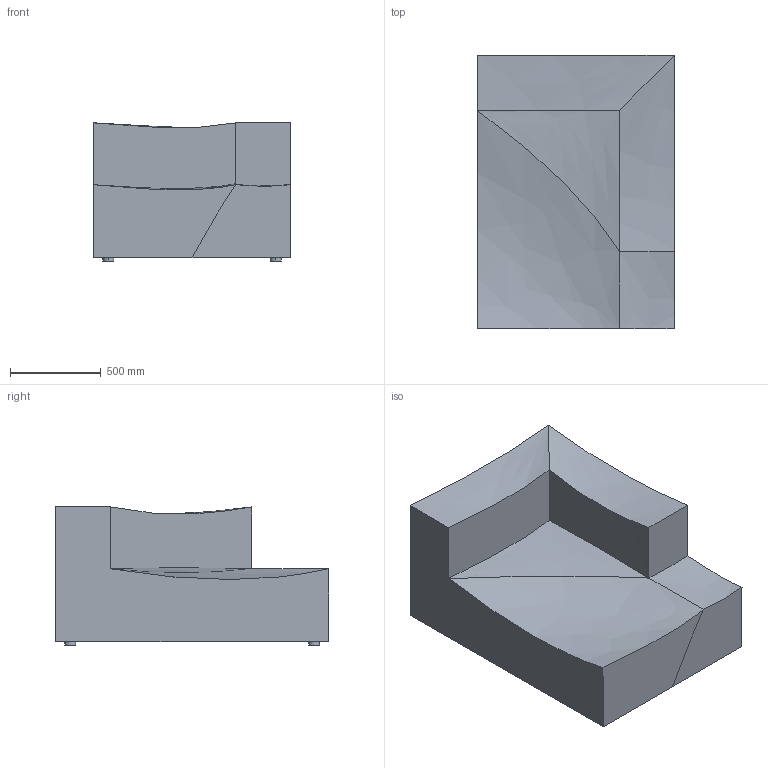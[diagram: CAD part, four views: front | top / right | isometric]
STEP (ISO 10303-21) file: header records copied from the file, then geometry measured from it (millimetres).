
FILE_DESCRIPTION(/* description */ (''),/* implementation_level */ '2;1');
FILE_NAME(/* name */ 'Catena Chaise Longue - Large - Right - L601_3D',/* time_stamp */ '2022-06-03T16:22:04+02:00',/* author */ (''),/* organization */ (''),/* preprocessor_version */ 'ST-DEVELOPER v16.5',/* originating_system */ 'Rhino 7.18',/* authorisation */ '');
FILE_SCHEMA (('CONFIG_CONTROL_DESIGN'));
Length unit declared in the file: millimetre
Products named in the file (1): Document
Bounding box: 1080.24 x 1501.35 x 760.4 mm (x, y, z)
Volume: 226417.4 mm3; surface area: 6682368.5 mm2
Topology: 4 solids, 5 shells, 30 faces, 57 edges, 36 vertices
Faces by surface type: bspline 12, plane 10, cylinder 8
Entity records: 918 total; most frequent: CARTESIAN_POINT 420, ORIENTED_EDGE 111, EDGE_CURVE 57, VERTEX_POINT 36, B_SPLINE_CURVE_WITH_KNOTS 33, ADVANCED_FACE 30, FACE_OUTER_BOUND 30, EDGE_LOOP 30
